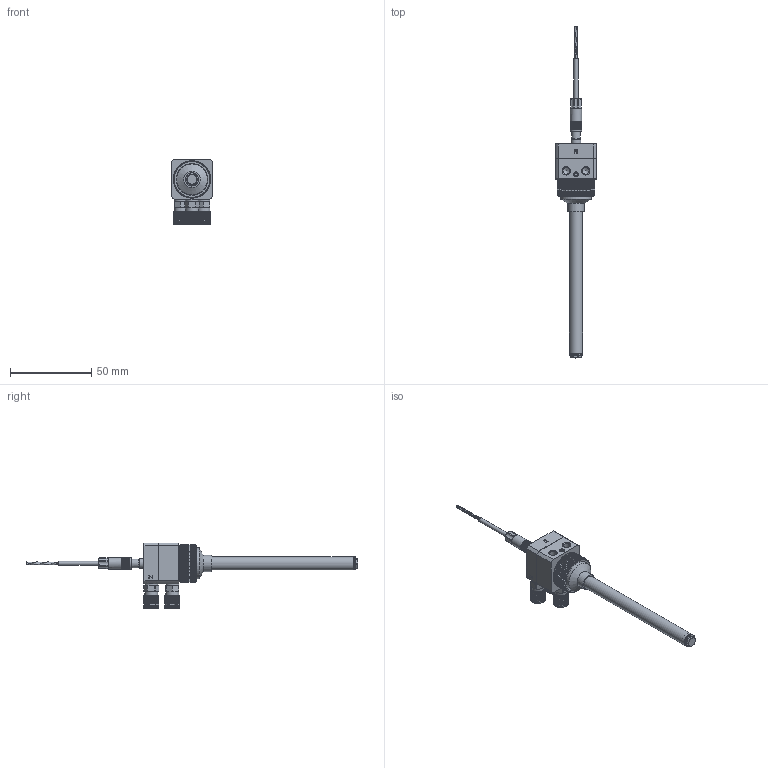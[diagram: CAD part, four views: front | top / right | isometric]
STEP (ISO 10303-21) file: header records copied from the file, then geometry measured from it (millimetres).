
FILE_DESCRIPTION (( 'STEP AP214' ), '1' );
FILE_NAME ('DAS-30-100-8-SENSOR.STEP', '2024-10-11T09:57:03', ( '' ), ( '' ), 'SwSTEP 2.0', 'SolidWorks 2024', '' );
FILE_SCHEMA (( 'AUTOMOTIVE_DESIGN' ));
Length unit declared in the file: millimetre
Products named in the file (1): DAS-30-100-8-SENSOR
Bounding box: 25 x 204 x 40.5 mm (x, y, z)
Volume: 26001.8 mm3; surface area: 13561.1 mm2
Topology: 2 solids, 2 shells, 1720 faces, 4608 edges, 2962 vertices
Faces by surface type: plane 992, cylinder 448, cone 230, bspline 50
Full cylindrical faces by diameter (mm): 0.4 x12, 1.5 x4, 2.5 x1, 3 x3, 4 x4, 4.198 x2, 4.2 x2, 4.5 x1, 5 x2, 5.4 x1, 5.5 x4, 5.7 x3, 6 x1, 6.1 x1, 6.2 x3, 6.8 x1, 7 x3, 7.2 x1, 7.998 x3, 8 x9, 8.7 x3, 10 x1, 19 x1, 19.2 x1, 19.8 x1, 20.15 x1, 21 x2, 21.2 x1
Entity records: 58235 total; most frequent: CARTESIAN_POINT 17382, ORIENTED_EDGE 8774, DIRECTION 7994, EDGE_CURVE 4387, VERTEX_POINT 2881, AXIS2_PLACEMENT_3D 2808, VECTOR 2378, LINE 2378
